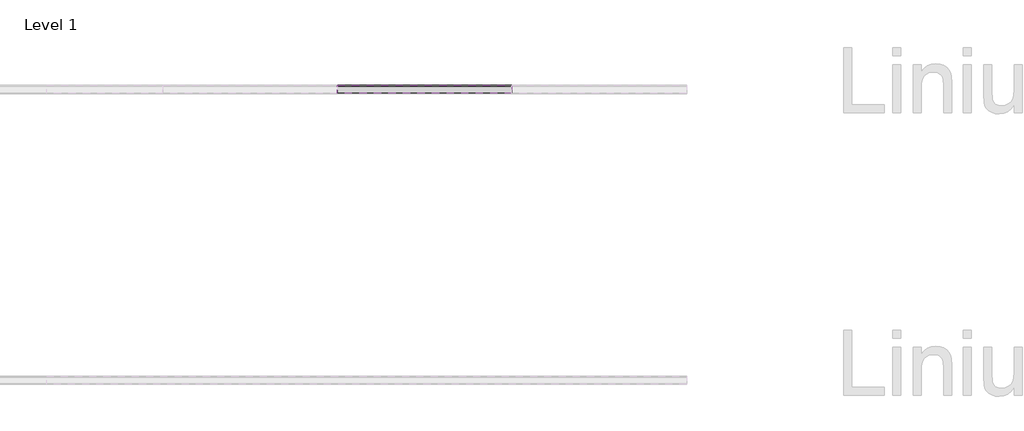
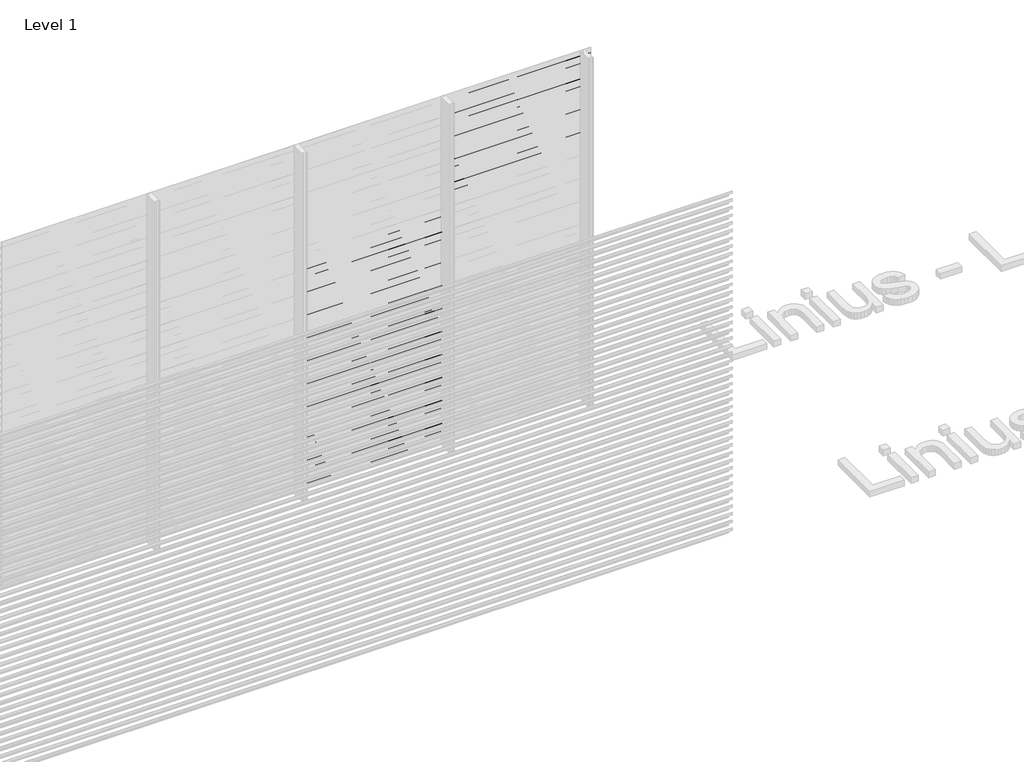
# One storey, part 129 of 540: 43 proxies.
"""IFC4 building model written with IfcOpenShell, lengths in millimetres."""

from ifc_helpers import new_model, si_unit, point, frame, frame_2d, origin, place, context, project, spatial, polyline, circle_curve, trimmed, segment, composite_curve, outline, extrude, element, save

model = new_model("IFC4")

# Units and contexts
model_context = context("Model", 3, world=origin())
ifc_project = project(units=[si_unit("LENGTHUNIT", "METRE", prefix="MILLI")], contexts=[model_context])

# Site, building, storey
site = spatial("IfcSite", under=ifc_project)
building = spatial("IfcBuilding", under=site)
storey = spatial("IfcBuildingStorey", under=building, Name="Level 1", Elevation=0.0)

# Proxies
placement = place(None, origin())
element("IfcBuildingElementProxy", 1, Name="Wall Sweeps", at=placement, inside=storey, context=model_context, shape_type="SweptSolid", body=[
    extrude(outline(composite_curve([segment(trimmed(circle_curve(frame_2d((14013.609548, 2899.7676769)), 26.4944656), [point((14030.5717655, 2920.1205608))], [point((14040.0540136, 2901.3946208))], False, "CARTESIAN"), True, "CONTINUOUS"), segment(polyline([(14040.0540136, 2901.3946208), (14040.0540136, 2893.5), (14038.8040136, 2894.2216933), (14038.8040136, 2899.7676769)]), True, "CONTINUOUS"), segment(trimmed(circle_curve(frame_2d((14013.609548, 2899.7676769)), 25.1944656), [point((14038.8040136, 2899.7676769))], [point((14029.7815085, 2919.086807))], True, "CARTESIAN"), True, "CONTINUOUS"), segment(polyline([(14029.7815085, 2919.086807), (13985.0540136, 2950.3158044), (13985.0540136, 2970.0), (13986.3040136, 2970.0), (13986.3040136, 2951.0285629), (14030.5717655, 2920.1205608)]), True, "CONTINUOUS")], self_intersect=False)), frame((94266.6208095, 0.0, 0.0), z_axis=(1.0, 0.0, 0.0), x_axis=(0.0, 1.0, 0.0)), (0.0, 0.0, 1.0), 1200.0000002),
])
element("IfcBuildingElementProxy", 2, Name="Wall Sweeps", at=placement, inside=storey, context=model_context, shape_type="SweptSolid", body=[
    extrude(outline(composite_curve([segment(trimmed(circle_curve(frame_2d((14013.609548, 2833.7676769)), 26.4944656), [point((14030.5717655, 2854.1205608))], [point((14040.0540136, 2835.3946208))], False, "CARTESIAN"), True, "CONTINUOUS"), segment(polyline([(14040.0540136, 2835.3946208), (14040.0540136, 2827.5), (14038.8040136, 2828.2216933), (14038.8040136, 2833.7676769)]), True, "CONTINUOUS"), segment(trimmed(circle_curve(frame_2d((14013.609548, 2833.7676769)), 25.1944656), [point((14038.8040136, 2833.7676769))], [point((14029.7815085, 2853.086807))], True, "CARTESIAN"), True, "CONTINUOUS"), segment(polyline([(14029.7815085, 2853.086807), (13985.0540136, 2884.3158044), (13985.0540136, 2904.0), (13986.3040136, 2904.0), (13986.3040136, 2885.0285629), (14030.5717655, 2854.1205608)]), True, "CONTINUOUS")], self_intersect=False)), frame((94266.6208095, 0.0, 0.0), z_axis=(1.0, 0.0, 0.0), x_axis=(0.0, 1.0, 0.0)), (0.0, 0.0, 1.0), 1200.0000002),
])
element("IfcBuildingElementProxy", 3, Name="Wall Sweeps", at=placement, inside=storey, context=model_context, shape_type="SweptSolid", body=[
    extrude(outline(composite_curve([segment(trimmed(circle_curve(frame_2d((14013.609548, 2767.7676769)), 26.4944656), [point((14030.5717655, 2788.1205608))], [point((14040.0540136, 2769.3946208))], False, "CARTESIAN"), True, "CONTINUOUS"), segment(polyline([(14040.0540136, 2769.3946208), (14040.0540136, 2761.5), (14038.8040136, 2762.2216933), (14038.8040136, 2767.7676769)]), True, "CONTINUOUS"), segment(trimmed(circle_curve(frame_2d((14013.609548, 2767.7676769)), 25.1944656), [point((14038.8040136, 2767.7676769))], [point((14029.7815085, 2787.086807))], True, "CARTESIAN"), True, "CONTINUOUS"), segment(polyline([(14029.7815085, 2787.086807), (13985.0540136, 2818.3158044), (13985.0540136, 2838.0), (13986.3040136, 2838.0), (13986.3040136, 2819.0285629), (14030.5717655, 2788.1205608)]), True, "CONTINUOUS")], self_intersect=False)), frame((94266.6208095, 0.0, 0.0), z_axis=(1.0, 0.0, 0.0), x_axis=(0.0, 1.0, 0.0)), (0.0, 0.0, 1.0), 1200.0000002),
])
element("IfcBuildingElementProxy", 4, Name="Wall Sweeps", at=placement, inside=storey, context=model_context, shape_type="SweptSolid", body=[
    extrude(outline(composite_curve([segment(trimmed(circle_curve(frame_2d((14013.609548, 2701.7676769)), 26.4944656), [point((14030.5717655, 2722.1205608))], [point((14040.0540136, 2703.3946208))], False, "CARTESIAN"), True, "CONTINUOUS"), segment(polyline([(14040.0540136, 2703.3946208), (14040.0540136, 2695.5), (14038.8040136, 2696.2216933), (14038.8040136, 2701.7676769)]), True, "CONTINUOUS"), segment(trimmed(circle_curve(frame_2d((14013.609548, 2701.7676769)), 25.1944656), [point((14038.8040136, 2701.7676769))], [point((14029.7815085, 2721.086807))], True, "CARTESIAN"), True, "CONTINUOUS"), segment(polyline([(14029.7815085, 2721.086807), (13985.0540136, 2752.3158044), (13985.0540136, 2772.0), (13986.3040136, 2772.0), (13986.3040136, 2753.0285629), (14030.5717655, 2722.1205608)]), True, "CONTINUOUS")], self_intersect=False)), frame((94266.6208095, 0.0, 0.0), z_axis=(1.0, 0.0, 0.0), x_axis=(0.0, 1.0, 0.0)), (0.0, 0.0, 1.0), 1200.0000002),
])
element("IfcBuildingElementProxy", 5, Name="Wall Sweeps", at=placement, inside=storey, context=model_context, shape_type="SweptSolid", body=[
    extrude(outline(composite_curve([segment(trimmed(circle_curve(frame_2d((14013.609548, 2635.7676769)), 26.4944656), [point((14030.5717655, 2656.1205608))], [point((14040.0540136, 2637.3946208))], False, "CARTESIAN"), True, "CONTINUOUS"), segment(polyline([(14040.0540136, 2637.3946208), (14040.0540136, 2629.5), (14038.8040136, 2630.2216933), (14038.8040136, 2635.7676769)]), True, "CONTINUOUS"), segment(trimmed(circle_curve(frame_2d((14013.609548, 2635.7676769)), 25.1944656), [point((14038.8040136, 2635.7676769))], [point((14029.7815085, 2655.086807))], True, "CARTESIAN"), True, "CONTINUOUS"), segment(polyline([(14029.7815085, 2655.086807), (13985.0540136, 2686.3158044), (13985.0540136, 2706.0), (13986.3040136, 2706.0), (13986.3040136, 2687.0285629), (14030.5717655, 2656.1205608)]), True, "CONTINUOUS")], self_intersect=False)), frame((94266.6208095, 0.0, 0.0), z_axis=(1.0, 0.0, 0.0), x_axis=(0.0, 1.0, 0.0)), (0.0, 0.0, 1.0), 1200.0000002),
])
element("IfcBuildingElementProxy", 6, Name="Wall Sweeps", at=placement, inside=storey, context=model_context, shape_type="SweptSolid", body=[
    extrude(outline(composite_curve([segment(trimmed(circle_curve(frame_2d((14013.609548, 2569.7676769)), 26.4944656), [point((14030.5717655, 2590.1205608))], [point((14040.0540136, 2571.3946208))], False, "CARTESIAN"), True, "CONTINUOUS"), segment(polyline([(14040.0540136, 2571.3946208), (14040.0540136, 2563.5), (14038.8040136, 2564.2216933), (14038.8040136, 2569.7676769)]), True, "CONTINUOUS"), segment(trimmed(circle_curve(frame_2d((14013.609548, 2569.7676769)), 25.1944656), [point((14038.8040136, 2569.7676769))], [point((14029.7815085, 2589.086807))], True, "CARTESIAN"), True, "CONTINUOUS"), segment(polyline([(14029.7815085, 2589.086807), (13985.0540136, 2620.3158044), (13985.0540136, 2640.0), (13986.3040136, 2640.0), (13986.3040136, 2621.0285629), (14030.5717655, 2590.1205608)]), True, "CONTINUOUS")], self_intersect=False)), frame((94266.6208095, 0.0, 0.0), z_axis=(1.0, 0.0, 0.0), x_axis=(0.0, 1.0, 0.0)), (0.0, 0.0, 1.0), 1200.0000002),
])
element("IfcBuildingElementProxy", 7, Name="Wall Sweeps", at=placement, inside=storey, context=model_context, shape_type="SweptSolid", body=[
    extrude(outline(composite_curve([segment(trimmed(circle_curve(frame_2d((14013.609548, 2503.7676769)), 26.4944656), [point((14030.5717655, 2524.1205608))], [point((14040.0540136, 2505.3946208))], False, "CARTESIAN"), True, "CONTINUOUS"), segment(polyline([(14040.0540136, 2505.3946208), (14040.0540136, 2497.5), (14038.8040136, 2498.2216933), (14038.8040136, 2503.7676769)]), True, "CONTINUOUS"), segment(trimmed(circle_curve(frame_2d((14013.609548, 2503.7676769)), 25.1944656), [point((14038.8040136, 2503.7676769))], [point((14029.7815085, 2523.086807))], True, "CARTESIAN"), True, "CONTINUOUS"), segment(polyline([(14029.7815085, 2523.086807), (13985.0540136, 2554.3158044), (13985.0540136, 2574.0), (13986.3040136, 2574.0), (13986.3040136, 2555.0285629), (14030.5717655, 2524.1205608)]), True, "CONTINUOUS")], self_intersect=False)), frame((94266.6208095, 0.0, 0.0), z_axis=(1.0, 0.0, 0.0), x_axis=(0.0, 1.0, 0.0)), (0.0, 0.0, 1.0), 1200.0000002),
])
element("IfcBuildingElementProxy", 8, Name="Wall Sweeps", at=placement, inside=storey, context=model_context, shape_type="SweptSolid", body=[
    extrude(outline(composite_curve([segment(trimmed(circle_curve(frame_2d((14013.609548, 2437.7676769)), 26.4944656), [point((14030.5717655, 2458.1205608))], [point((14040.0540136, 2439.3946208))], False, "CARTESIAN"), True, "CONTINUOUS"), segment(polyline([(14040.0540136, 2439.3946208), (14040.0540136, 2431.5), (14038.8040136, 2432.2216933), (14038.8040136, 2437.7676769)]), True, "CONTINUOUS"), segment(trimmed(circle_curve(frame_2d((14013.609548, 2437.7676769)), 25.1944656), [point((14038.8040136, 2437.7676769))], [point((14029.7815085, 2457.086807))], True, "CARTESIAN"), True, "CONTINUOUS"), segment(polyline([(14029.7815085, 2457.086807), (13985.0540136, 2488.3158044), (13985.0540136, 2508.0), (13986.3040136, 2508.0), (13986.3040136, 2489.0285629), (14030.5717655, 2458.1205608)]), True, "CONTINUOUS")], self_intersect=False)), frame((94266.6208095, 0.0, 0.0), z_axis=(1.0, 0.0, 0.0), x_axis=(0.0, 1.0, 0.0)), (0.0, 0.0, 1.0), 1200.0000002),
])
element("IfcBuildingElementProxy", 9, Name="Wall Sweeps", at=placement, inside=storey, context=model_context, shape_type="SweptSolid", body=[
    extrude(outline(composite_curve([segment(trimmed(circle_curve(frame_2d((14013.609548, 2371.7676769)), 26.4944656), [point((14030.5717655, 2392.1205608))], [point((14040.0540136, 2373.3946208))], False, "CARTESIAN"), True, "CONTINUOUS"), segment(polyline([(14040.0540136, 2373.3946208), (14040.0540136, 2365.5), (14038.8040136, 2366.2216933), (14038.8040136, 2371.7676769)]), True, "CONTINUOUS"), segment(trimmed(circle_curve(frame_2d((14013.609548, 2371.7676769)), 25.1944656), [point((14038.8040136, 2371.7676769))], [point((14029.7815085, 2391.086807))], True, "CARTESIAN"), True, "CONTINUOUS"), segment(polyline([(14029.7815085, 2391.086807), (13985.0540136, 2422.3158044), (13985.0540136, 2442.0), (13986.3040136, 2442.0), (13986.3040136, 2423.0285629), (14030.5717655, 2392.1205608)]), True, "CONTINUOUS")], self_intersect=False)), frame((94266.6208095, 0.0, 0.0), z_axis=(1.0, 0.0, 0.0), x_axis=(0.0, 1.0, 0.0)), (0.0, 0.0, 1.0), 1200.0000002),
])
element("IfcBuildingElementProxy", 10, Name="Wall Sweeps", at=placement, inside=storey, context=model_context, shape_type="SweptSolid", body=[
    extrude(outline(composite_curve([segment(trimmed(circle_curve(frame_2d((14013.609548, 2305.7676769)), 26.4944656), [point((14030.5717655, 2326.1205608))], [point((14040.0540136, 2307.3946208))], False, "CARTESIAN"), True, "CONTINUOUS"), segment(polyline([(14040.0540136, 2307.3946208), (14040.0540136, 2299.5), (14038.8040136, 2300.2216933), (14038.8040136, 2305.7676769)]), True, "CONTINUOUS"), segment(trimmed(circle_curve(frame_2d((14013.609548, 2305.7676769)), 25.1944656), [point((14038.8040136, 2305.7676769))], [point((14029.7815085, 2325.086807))], True, "CARTESIAN"), True, "CONTINUOUS"), segment(polyline([(14029.7815085, 2325.086807), (13985.0540136, 2356.3158044), (13985.0540136, 2376.0), (13986.3040136, 2376.0), (13986.3040136, 2357.0285629), (14030.5717655, 2326.1205608)]), True, "CONTINUOUS")], self_intersect=False)), frame((94266.6208095, 0.0, 0.0), z_axis=(1.0, 0.0, 0.0), x_axis=(0.0, 1.0, 0.0)), (0.0, 0.0, 1.0), 1200.0000002),
])
element("IfcBuildingElementProxy", 11, Name="Wall Sweeps", at=placement, inside=storey, context=model_context, shape_type="SweptSolid", body=[
    extrude(outline(composite_curve([segment(trimmed(circle_curve(frame_2d((14013.609548, 2239.7676769)), 26.4944656), [point((14030.5717655, 2260.1205608))], [point((14040.0540136, 2241.3946208))], False, "CARTESIAN"), True, "CONTINUOUS"), segment(polyline([(14040.0540136, 2241.3946208), (14040.0540136, 2233.5), (14038.8040136, 2234.2216933), (14038.8040136, 2239.7676769)]), True, "CONTINUOUS"), segment(trimmed(circle_curve(frame_2d((14013.609548, 2239.7676769)), 25.1944656), [point((14038.8040136, 2239.7676769))], [point((14029.7815085, 2259.086807))], True, "CARTESIAN"), True, "CONTINUOUS"), segment(polyline([(14029.7815085, 2259.086807), (13985.0540136, 2290.3158044), (13985.0540136, 2310.0), (13986.3040136, 2310.0), (13986.3040136, 2291.0285629), (14030.5717655, 2260.1205608)]), True, "CONTINUOUS")], self_intersect=False)), frame((94266.6208095, 0.0, 0.0), z_axis=(1.0, 0.0, 0.0), x_axis=(0.0, 1.0, 0.0)), (0.0, 0.0, 1.0), 1200.0000002),
])
element("IfcBuildingElementProxy", 12, Name="Wall Sweeps", at=placement, inside=storey, context=model_context, shape_type="SweptSolid", body=[
    extrude(outline(composite_curve([segment(trimmed(circle_curve(frame_2d((14013.609548, 2173.7676769)), 26.4944656), [point((14030.5717655, 2194.1205608))], [point((14040.0540136, 2175.3946208))], False, "CARTESIAN"), True, "CONTINUOUS"), segment(polyline([(14040.0540136, 2175.3946208), (14040.0540136, 2167.5), (14038.8040136, 2168.2216933), (14038.8040136, 2173.7676769)]), True, "CONTINUOUS"), segment(trimmed(circle_curve(frame_2d((14013.609548, 2173.7676769)), 25.1944656), [point((14038.8040136, 2173.7676769))], [point((14029.7815085, 2193.086807))], True, "CARTESIAN"), True, "CONTINUOUS"), segment(polyline([(14029.7815085, 2193.086807), (13985.0540136, 2224.3158044), (13985.0540136, 2244.0), (13986.3040136, 2244.0), (13986.3040136, 2225.0285629), (14030.5717655, 2194.1205608)]), True, "CONTINUOUS")], self_intersect=False)), frame((94266.6208095, 0.0, 0.0), z_axis=(1.0, 0.0, 0.0), x_axis=(0.0, 1.0, 0.0)), (0.0, 0.0, 1.0), 1200.0000002),
])
element("IfcBuildingElementProxy", 13, Name="Wall Sweeps", at=placement, inside=storey, context=model_context, shape_type="SweptSolid", body=[
    extrude(outline(composite_curve([segment(trimmed(circle_curve(frame_2d((14013.609548, 2107.7676769)), 26.4944656), [point((14030.5717655, 2128.1205608))], [point((14040.0540136, 2109.3946208))], False, "CARTESIAN"), True, "CONTINUOUS"), segment(polyline([(14040.0540136, 2109.3946208), (14040.0540136, 2101.5), (14038.8040136, 2102.2216933), (14038.8040136, 2107.7676769)]), True, "CONTINUOUS"), segment(trimmed(circle_curve(frame_2d((14013.609548, 2107.7676769)), 25.1944656), [point((14038.8040136, 2107.7676769))], [point((14029.7815085, 2127.086807))], True, "CARTESIAN"), True, "CONTINUOUS"), segment(polyline([(14029.7815085, 2127.086807), (13985.0540136, 2158.3158044), (13985.0540136, 2178.0), (13986.3040136, 2178.0), (13986.3040136, 2159.0285629), (14030.5717655, 2128.1205608)]), True, "CONTINUOUS")], self_intersect=False)), frame((94266.6208095, 0.0, 0.0), z_axis=(1.0, 0.0, 0.0), x_axis=(0.0, 1.0, 0.0)), (0.0, 0.0, 1.0), 1200.0000002),
])
element("IfcBuildingElementProxy", 14, Name="Wall Sweeps", at=placement, inside=storey, context=model_context, shape_type="SweptSolid", body=[
    extrude(outline(composite_curve([segment(trimmed(circle_curve(frame_2d((14013.609548, 1909.7676769)), 26.4944656), [point((14030.5717655, 1930.1205608))], [point((14040.0540136, 1911.3946208))], False, "CARTESIAN"), True, "CONTINUOUS"), segment(polyline([(14040.0540136, 1911.3946208), (14040.0540136, 1903.5), (14038.8040136, 1904.2216933), (14038.8040136, 1909.7676769)]), True, "CONTINUOUS"), segment(trimmed(circle_curve(frame_2d((14013.609548, 1909.7676769)), 25.1944656), [point((14038.8040136, 1909.7676769))], [point((14029.7815085, 1929.086807))], True, "CARTESIAN"), True, "CONTINUOUS"), segment(polyline([(14029.7815085, 1929.086807), (13985.0540136, 1960.3158044), (13985.0540136, 1980.0), (13986.3040136, 1980.0), (13986.3040136, 1961.0285629), (14030.5717655, 1930.1205608)]), True, "CONTINUOUS")], self_intersect=False)), frame((93066.6208096, 0.0, 0.0), z_axis=(1.0, 0.0, 0.0), x_axis=(0.0, 1.0, 0.0)), (0.0, 0.0, 1.0), 1199.9999999),
])
element("IfcBuildingElementProxy", 15, Name="Wall Sweeps", at=placement, inside=storey, context=model_context, shape_type="SweptSolid", body=[
    extrude(outline(composite_curve([segment(trimmed(circle_curve(frame_2d((14013.609548, 1843.7676769)), 26.4944656), [point((14030.5717655, 1864.1205608))], [point((14040.0540136, 1845.3946208))], False, "CARTESIAN"), True, "CONTINUOUS"), segment(polyline([(14040.0540136, 1845.3946208), (14040.0540136, 1837.5), (14038.8040136, 1838.2216933), (14038.8040136, 1843.7676769)]), True, "CONTINUOUS"), segment(trimmed(circle_curve(frame_2d((14013.609548, 1843.7676769)), 25.1944656), [point((14038.8040136, 1843.7676769))], [point((14029.7815085, 1863.086807))], True, "CARTESIAN"), True, "CONTINUOUS"), segment(polyline([(14029.7815085, 1863.086807), (13985.0540136, 1894.3158044), (13985.0540136, 1914.0), (13986.3040136, 1914.0), (13986.3040136, 1895.0285629), (14030.5717655, 1864.1205608)]), True, "CONTINUOUS")], self_intersect=False)), frame((93066.6208096, 0.0, 0.0), z_axis=(1.0, 0.0, 0.0), x_axis=(0.0, 1.0, 0.0)), (0.0, 0.0, 1.0), 1199.9999999),
])
element("IfcBuildingElementProxy", 16, Name="Wall Sweeps", at=placement, inside=storey, context=model_context, shape_type="SweptSolid", body=[
    extrude(outline(composite_curve([segment(trimmed(circle_curve(frame_2d((14013.609548, 1777.7676769)), 26.4944656), [point((14030.5717655, 1798.1205608))], [point((14040.0540136, 1779.3946208))], False, "CARTESIAN"), True, "CONTINUOUS"), segment(polyline([(14040.0540136, 1779.3946208), (14040.0540136, 1771.5), (14038.8040136, 1772.2216933), (14038.8040136, 1777.7676769)]), True, "CONTINUOUS"), segment(trimmed(circle_curve(frame_2d((14013.609548, 1777.7676769)), 25.1944656), [point((14038.8040136, 1777.7676769))], [point((14029.7815085, 1797.086807))], True, "CARTESIAN"), True, "CONTINUOUS"), segment(polyline([(14029.7815085, 1797.086807), (13985.0540136, 1828.3158044), (13985.0540136, 1848.0), (13986.3040136, 1848.0), (13986.3040136, 1829.0285629), (14030.5717655, 1798.1205608)]), True, "CONTINUOUS")], self_intersect=False)), frame((93066.6208096, 0.0, 0.0), z_axis=(1.0, 0.0, 0.0), x_axis=(0.0, 1.0, 0.0)), (0.0, 0.0, 1.0), 1199.9999999),
])
element("IfcBuildingElementProxy", 17, Name="Wall Sweeps", at=placement, inside=storey, context=model_context, shape_type="SweptSolid", body=[
    extrude(outline(composite_curve([segment(trimmed(circle_curve(frame_2d((14013.609548, 1711.7676769)), 26.4944656), [point((14030.5717655, 1732.1205608))], [point((14040.0540136, 1713.3946208))], False, "CARTESIAN"), True, "CONTINUOUS"), segment(polyline([(14040.0540136, 1713.3946208), (14040.0540136, 1705.5), (14038.8040136, 1706.2216933), (14038.8040136, 1711.7676769)]), True, "CONTINUOUS"), segment(trimmed(circle_curve(frame_2d((14013.609548, 1711.7676769)), 25.1944656), [point((14038.8040136, 1711.7676769))], [point((14029.7815085, 1731.086807))], True, "CARTESIAN"), True, "CONTINUOUS"), segment(polyline([(14029.7815085, 1731.086807), (13985.0540136, 1762.3158044), (13985.0540136, 1782.0), (13986.3040136, 1782.0), (13986.3040136, 1763.0285629), (14030.5717655, 1732.1205608)]), True, "CONTINUOUS")], self_intersect=False)), frame((93066.6208096, 0.0, 0.0), z_axis=(1.0, 0.0, 0.0), x_axis=(0.0, 1.0, 0.0)), (0.0, 0.0, 1.0), 1199.9999999),
])
element("IfcBuildingElementProxy", 18, Name="Wall Sweeps", at=placement, inside=storey, context=model_context, shape_type="SweptSolid", body=[
    extrude(outline(composite_curve([segment(trimmed(circle_curve(frame_2d((14013.609548, 1645.7676769)), 26.4944656), [point((14030.5717655, 1666.1205608))], [point((14040.0540136, 1647.3946208))], False, "CARTESIAN"), True, "CONTINUOUS"), segment(polyline([(14040.0540136, 1647.3946208), (14040.0540136, 1639.5), (14038.8040136, 1640.2216933), (14038.8040136, 1645.7676769)]), True, "CONTINUOUS"), segment(trimmed(circle_curve(frame_2d((14013.609548, 1645.7676769)), 25.1944656), [point((14038.8040136, 1645.7676769))], [point((14029.7815085, 1665.086807))], True, "CARTESIAN"), True, "CONTINUOUS"), segment(polyline([(14029.7815085, 1665.086807), (13985.0540136, 1696.3158044), (13985.0540136, 1716.0), (13986.3040136, 1716.0), (13986.3040136, 1697.0285629), (14030.5717655, 1666.1205608)]), True, "CONTINUOUS")], self_intersect=False)), frame((93066.6208096, 0.0, 0.0), z_axis=(1.0, 0.0, 0.0), x_axis=(0.0, 1.0, 0.0)), (0.0, 0.0, 1.0), 1199.9999999),
])
element("IfcBuildingElementProxy", 19, Name="Wall Sweeps", at=placement, inside=storey, context=model_context, shape_type="SweptSolid", body=[
    extrude(outline(composite_curve([segment(trimmed(circle_curve(frame_2d((14013.609548, 1579.7676769)), 26.4944656), [point((14030.5717655, 1600.1205608))], [point((14040.0540136, 1581.3946208))], False, "CARTESIAN"), True, "CONTINUOUS"), segment(polyline([(14040.0540136, 1581.3946208), (14040.0540136, 1573.5), (14038.8040136, 1574.2216933), (14038.8040136, 1579.7676769)]), True, "CONTINUOUS"), segment(trimmed(circle_curve(frame_2d((14013.609548, 1579.7676769)), 25.1944656), [point((14038.8040136, 1579.7676769))], [point((14029.7815085, 1599.086807))], True, "CARTESIAN"), True, "CONTINUOUS"), segment(polyline([(14029.7815085, 1599.086807), (13985.0540136, 1630.3158044), (13985.0540136, 1650.0), (13986.3040136, 1650.0), (13986.3040136, 1631.0285629), (14030.5717655, 1600.1205608)]), True, "CONTINUOUS")], self_intersect=False)), frame((93066.6208096, 0.0, 0.0), z_axis=(1.0, 0.0, 0.0), x_axis=(0.0, 1.0, 0.0)), (0.0, 0.0, 1.0), 1199.9999999),
])
element("IfcBuildingElementProxy", 20, Name="Wall Sweeps", at=placement, inside=storey, context=model_context, shape_type="SweptSolid", body=[
    extrude(outline(composite_curve([segment(trimmed(circle_curve(frame_2d((14013.609548, 1513.7676769)), 26.4944656), [point((14030.5717655, 1534.1205608))], [point((14040.0540136, 1515.3946208))], False, "CARTESIAN"), True, "CONTINUOUS"), segment(polyline([(14040.0540136, 1515.3946208), (14040.0540136, 1507.5), (14038.8040136, 1508.2216933), (14038.8040136, 1513.7676769)]), True, "CONTINUOUS"), segment(trimmed(circle_curve(frame_2d((14013.609548, 1513.7676769)), 25.1944656), [point((14038.8040136, 1513.7676769))], [point((14029.7815085, 1533.086807))], True, "CARTESIAN"), True, "CONTINUOUS"), segment(polyline([(14029.7815085, 1533.086807), (13985.0540136, 1564.3158044), (13985.0540136, 1584.0), (13986.3040136, 1584.0), (13986.3040136, 1565.0285629), (14030.5717655, 1534.1205608)]), True, "CONTINUOUS")], self_intersect=False)), frame((93066.6208096, 0.0, 0.0), z_axis=(1.0, 0.0, 0.0), x_axis=(0.0, 1.0, 0.0)), (0.0, 0.0, 1.0), 1199.9999999),
])
element("IfcBuildingElementProxy", 21, Name="Wall Sweeps", at=placement, inside=storey, context=model_context, shape_type="SweptSolid", body=[
    extrude(outline(composite_curve([segment(trimmed(circle_curve(frame_2d((14013.609548, 1447.7676769)), 26.4944656), [point((14030.5717655, 1468.1205608))], [point((14040.0540136, 1449.3946208))], False, "CARTESIAN"), True, "CONTINUOUS"), segment(polyline([(14040.0540136, 1449.3946208), (14040.0540136, 1441.5), (14038.8040136, 1442.2216933), (14038.8040136, 1447.7676769)]), True, "CONTINUOUS"), segment(trimmed(circle_curve(frame_2d((14013.609548, 1447.7676769)), 25.1944656), [point((14038.8040136, 1447.7676769))], [point((14029.7815085, 1467.086807))], True, "CARTESIAN"), True, "CONTINUOUS"), segment(polyline([(14029.7815085, 1467.086807), (13985.0540136, 1498.3158044), (13985.0540136, 1518.0), (13986.3040136, 1518.0), (13986.3040136, 1499.0285629), (14030.5717655, 1468.1205608)]), True, "CONTINUOUS")], self_intersect=False)), frame((93066.6208096, 0.0, 0.0), z_axis=(1.0, 0.0, 0.0), x_axis=(0.0, 1.0, 0.0)), (0.0, 0.0, 1.0), 1199.9999999),
])
element("IfcBuildingElementProxy", 22, Name="Wall Sweeps", at=placement, inside=storey, context=model_context, shape_type="SweptSolid", body=[
    extrude(outline(composite_curve([segment(trimmed(circle_curve(frame_2d((14013.609548, 1381.7676769)), 26.4944656), [point((14030.5717655, 1402.1205608))], [point((14040.0540136, 1383.3946208))], False, "CARTESIAN"), True, "CONTINUOUS"), segment(polyline([(14040.0540136, 1383.3946208), (14040.0540136, 1375.5), (14038.8040136, 1376.2216933), (14038.8040136, 1381.7676769)]), True, "CONTINUOUS"), segment(trimmed(circle_curve(frame_2d((14013.609548, 1381.7676769)), 25.1944656), [point((14038.8040136, 1381.7676769))], [point((14029.7815085, 1401.086807))], True, "CARTESIAN"), True, "CONTINUOUS"), segment(polyline([(14029.7815085, 1401.086807), (13985.0540136, 1432.3158044), (13985.0540136, 1452.0), (13986.3040136, 1452.0), (13986.3040136, 1433.0285629), (14030.5717655, 1402.1205608)]), True, "CONTINUOUS")], self_intersect=False)), frame((93066.6208096, 0.0, 0.0), z_axis=(1.0, 0.0, 0.0), x_axis=(0.0, 1.0, 0.0)), (0.0, 0.0, 1.0), 1199.9999999),
])
element("IfcBuildingElementProxy", 23, Name="Wall Sweeps", at=placement, inside=storey, context=model_context, shape_type="SweptSolid", body=[
    extrude(outline(composite_curve([segment(trimmed(circle_curve(frame_2d((14013.609548, 1315.7676769)), 26.4944656), [point((14030.5717655, 1336.1205608))], [point((14040.0540136, 1317.3946208))], False, "CARTESIAN"), True, "CONTINUOUS"), segment(polyline([(14040.0540136, 1317.3946208), (14040.0540136, 1309.5), (14038.8040136, 1310.2216933), (14038.8040136, 1315.7676769)]), True, "CONTINUOUS"), segment(trimmed(circle_curve(frame_2d((14013.609548, 1315.7676769)), 25.1944656), [point((14038.8040136, 1315.7676769))], [point((14029.7815085, 1335.086807))], True, "CARTESIAN"), True, "CONTINUOUS"), segment(polyline([(14029.7815085, 1335.086807), (13985.0540136, 1366.3158044), (13985.0540136, 1386.0), (13986.3040136, 1386.0), (13986.3040136, 1367.0285629), (14030.5717655, 1336.1205608)]), True, "CONTINUOUS")], self_intersect=False)), frame((93066.6208096, 0.0, 0.0), z_axis=(1.0, 0.0, 0.0), x_axis=(0.0, 1.0, 0.0)), (0.0, 0.0, 1.0), 1199.9999999),
])
element("IfcBuildingElementProxy", 24, Name="Wall Sweeps", at=placement, inside=storey, context=model_context, shape_type="SweptSolid", body=[
    extrude(outline(composite_curve([segment(trimmed(circle_curve(frame_2d((14013.609548, 1249.7676769)), 26.4944656), [point((14030.5717655, 1270.1205608))], [point((14040.0540136, 1251.3946208))], False, "CARTESIAN"), True, "CONTINUOUS"), segment(polyline([(14040.0540136, 1251.3946208), (14040.0540136, 1243.5), (14038.8040136, 1244.2216933), (14038.8040136, 1249.7676769)]), True, "CONTINUOUS"), segment(trimmed(circle_curve(frame_2d((14013.609548, 1249.7676769)), 25.1944656), [point((14038.8040136, 1249.7676769))], [point((14029.7815085, 1269.086807))], True, "CARTESIAN"), True, "CONTINUOUS"), segment(polyline([(14029.7815085, 1269.086807), (13985.0540136, 1300.3158044), (13985.0540136, 1320.0), (13986.3040136, 1320.0), (13986.3040136, 1301.0285629), (14030.5717655, 1270.1205608)]), True, "CONTINUOUS")], self_intersect=False)), frame((93066.6208096, 0.0, 0.0), z_axis=(1.0, 0.0, 0.0), x_axis=(0.0, 1.0, 0.0)), (0.0, 0.0, 1.0), 1199.9999999),
])
element("IfcBuildingElementProxy", 25, Name="Wall Sweeps", at=placement, inside=storey, context=model_context, shape_type="SweptSolid", body=[
    extrude(outline(composite_curve([segment(trimmed(circle_curve(frame_2d((14013.609548, 1183.7676769)), 26.4944656), [point((14030.5717655, 1204.1205608))], [point((14040.0540136, 1185.3946208))], False, "CARTESIAN"), True, "CONTINUOUS"), segment(polyline([(14040.0540136, 1185.3946208), (14040.0540136, 1177.5), (14038.8040136, 1178.2216933), (14038.8040136, 1183.7676769)]), True, "CONTINUOUS"), segment(trimmed(circle_curve(frame_2d((14013.609548, 1183.7676769)), 25.1944656), [point((14038.8040136, 1183.7676769))], [point((14029.7815085, 1203.086807))], True, "CARTESIAN"), True, "CONTINUOUS"), segment(polyline([(14029.7815085, 1203.086807), (13985.0540136, 1234.3158044), (13985.0540136, 1254.0), (13986.3040136, 1254.0), (13986.3040136, 1235.0285629), (14030.5717655, 1204.1205608)]), True, "CONTINUOUS")], self_intersect=False)), frame((93066.6208096, 0.0, 0.0), z_axis=(1.0, 0.0, 0.0), x_axis=(0.0, 1.0, 0.0)), (0.0, 0.0, 1.0), 1199.9999999),
])
element("IfcBuildingElementProxy", 26, Name="Wall Sweeps", at=placement, inside=storey, context=model_context, shape_type="SweptSolid", body=[
    extrude(outline(composite_curve([segment(trimmed(circle_curve(frame_2d((14013.609548, 1117.7676769)), 26.4944656), [point((14030.5717655, 1138.1205608))], [point((14040.0540136, 1119.3946208))], False, "CARTESIAN"), True, "CONTINUOUS"), segment(polyline([(14040.0540136, 1119.3946208), (14040.0540136, 1111.5), (14038.8040136, 1112.2216933), (14038.8040136, 1117.7676769)]), True, "CONTINUOUS"), segment(trimmed(circle_curve(frame_2d((14013.609548, 1117.7676769)), 25.1944656), [point((14038.8040136, 1117.7676769))], [point((14029.7815085, 1137.086807))], True, "CARTESIAN"), True, "CONTINUOUS"), segment(polyline([(14029.7815085, 1137.086807), (13985.0540136, 1168.3158044), (13985.0540136, 1188.0), (13986.3040136, 1188.0), (13986.3040136, 1169.0285629), (14030.5717655, 1138.1205608)]), True, "CONTINUOUS")], self_intersect=False)), frame((93066.6208096, 0.0, 0.0), z_axis=(1.0, 0.0, 0.0), x_axis=(0.0, 1.0, 0.0)), (0.0, 0.0, 1.0), 1199.9999999),
])
element("IfcBuildingElementProxy", 27, Name="Wall Sweeps", at=placement, inside=storey, context=model_context, shape_type="SweptSolid", body=[
    extrude(outline(composite_curve([segment(trimmed(circle_curve(frame_2d((14013.609548, 1051.7676769)), 26.4944656), [point((14030.5717655, 1072.1205608))], [point((14040.0540136, 1053.3946208))], False, "CARTESIAN"), True, "CONTINUOUS"), segment(polyline([(14040.0540136, 1053.3946208), (14040.0540136, 1045.5), (14038.8040136, 1046.2216933), (14038.8040136, 1051.7676769)]), True, "CONTINUOUS"), segment(trimmed(circle_curve(frame_2d((14013.609548, 1051.7676769)), 25.1944656), [point((14038.8040136, 1051.7676769))], [point((14029.7815085, 1071.086807))], True, "CARTESIAN"), True, "CONTINUOUS"), segment(polyline([(14029.7815085, 1071.086807), (13985.0540136, 1102.3158044), (13985.0540136, 1122.0), (13986.3040136, 1122.0), (13986.3040136, 1103.0285629), (14030.5717655, 1072.1205608)]), True, "CONTINUOUS")], self_intersect=False)), frame((93066.6208096, 0.0, 0.0), z_axis=(1.0, 0.0, 0.0), x_axis=(0.0, 1.0, 0.0)), (0.0, 0.0, 1.0), 1199.9999999),
])
element("IfcBuildingElementProxy", 28, Name="Wall Sweeps", at=placement, inside=storey, context=model_context, shape_type="SweptSolid", body=[
    extrude(outline(composite_curve([segment(trimmed(circle_curve(frame_2d((14013.609548, 985.7676769)), 26.4944656), [point((14030.5717655, 1006.1205608))], [point((14040.0540136, 987.3946208))], False, "CARTESIAN"), True, "CONTINUOUS"), segment(polyline([(14040.0540136, 987.3946208), (14040.0540136, 979.5), (14038.8040136, 980.2216933), (14038.8040136, 985.7676769)]), True, "CONTINUOUS"), segment(trimmed(circle_curve(frame_2d((14013.609548, 985.7676769)), 25.1944656), [point((14038.8040136, 985.7676769))], [point((14029.7815085, 1005.086807))], True, "CARTESIAN"), True, "CONTINUOUS"), segment(polyline([(14029.7815085, 1005.086807), (13985.0540136, 1036.3158044), (13985.0540136, 1056.0), (13986.3040136, 1056.0), (13986.3040136, 1037.0285629), (14030.5717655, 1006.1205608)]), True, "CONTINUOUS")], self_intersect=False)), frame((93066.6208096, 0.0, 0.0), z_axis=(1.0, 0.0, 0.0), x_axis=(0.0, 1.0, 0.0)), (0.0, 0.0, 1.0), 1199.9999999),
])
element("IfcBuildingElementProxy", 29, Name="Wall Sweeps", at=placement, inside=storey, context=model_context, shape_type="SweptSolid", body=[
    extrude(outline(composite_curve([segment(trimmed(circle_curve(frame_2d((14013.609548, 919.7676769)), 26.4944656), [point((14030.5717655, 940.1205608))], [point((14040.0540136, 921.3946208))], False, "CARTESIAN"), True, "CONTINUOUS"), segment(polyline([(14040.0540136, 921.3946208), (14040.0540136, 913.5), (14038.8040136, 914.2216933), (14038.8040136, 919.7676769)]), True, "CONTINUOUS"), segment(trimmed(circle_curve(frame_2d((14013.609548, 919.7676769)), 25.1944656), [point((14038.8040136, 919.7676769))], [point((14029.7815085, 939.086807))], True, "CARTESIAN"), True, "CONTINUOUS"), segment(polyline([(14029.7815085, 939.086807), (13985.0540136, 970.3158044), (13985.0540136, 990.0), (13986.3040136, 990.0), (13986.3040136, 971.0285629), (14030.5717655, 940.1205608)]), True, "CONTINUOUS")], self_intersect=False)), frame((93066.6208096, 0.0, 0.0), z_axis=(1.0, 0.0, 0.0), x_axis=(0.0, 1.0, 0.0)), (0.0, 0.0, 1.0), 1199.9999999),
])
element("IfcBuildingElementProxy", 30, Name="Wall Sweeps", at=placement, inside=storey, context=model_context, shape_type="SweptSolid", body=[
    extrude(outline(composite_curve([segment(trimmed(circle_curve(frame_2d((14013.609548, 853.7676769)), 26.4944656), [point((14030.5717655, 874.1205608))], [point((14040.0540136, 855.3946208))], False, "CARTESIAN"), True, "CONTINUOUS"), segment(polyline([(14040.0540136, 855.3946208), (14040.0540136, 847.5), (14038.8040136, 848.2216933), (14038.8040136, 853.7676769)]), True, "CONTINUOUS"), segment(trimmed(circle_curve(frame_2d((14013.609548, 853.7676769)), 25.1944656), [point((14038.8040136, 853.7676769))], [point((14029.7815085, 873.086807))], True, "CARTESIAN"), True, "CONTINUOUS"), segment(polyline([(14029.7815085, 873.086807), (13985.0540136, 904.3158044), (13985.0540136, 924.0), (13986.3040136, 924.0), (13986.3040136, 905.0285629), (14030.5717655, 874.1205608)]), True, "CONTINUOUS")], self_intersect=False)), frame((93066.6208096, 0.0, 0.0), z_axis=(1.0, 0.0, 0.0), x_axis=(0.0, 1.0, 0.0)), (0.0, 0.0, 1.0), 1199.9999999),
])
element("IfcBuildingElementProxy", 31, Name="Wall Sweeps", at=placement, inside=storey, context=model_context, shape_type="SweptSolid", body=[
    extrude(outline(composite_curve([segment(trimmed(circle_curve(frame_2d((14013.609548, 787.7676769)), 26.4944656), [point((14030.5717655, 808.1205608))], [point((14040.0540136, 789.3946208))], False, "CARTESIAN"), True, "CONTINUOUS"), segment(polyline([(14040.0540136, 789.3946208), (14040.0540136, 781.5), (14038.8040136, 782.2216933), (14038.8040136, 787.7676769)]), True, "CONTINUOUS"), segment(trimmed(circle_curve(frame_2d((14013.609548, 787.7676769)), 25.1944656), [point((14038.8040136, 787.7676769))], [point((14029.7815085, 807.086807))], True, "CARTESIAN"), True, "CONTINUOUS"), segment(polyline([(14029.7815085, 807.086807), (13985.0540136, 838.3158044), (13985.0540136, 858.0), (13986.3040136, 858.0), (13986.3040136, 839.0285629), (14030.5717655, 808.1205608)]), True, "CONTINUOUS")], self_intersect=False)), frame((93066.6208096, 0.0, 0.0), z_axis=(1.0, 0.0, 0.0), x_axis=(0.0, 1.0, 0.0)), (0.0, 0.0, 1.0), 1199.9999999),
])
element("IfcBuildingElementProxy", 32, Name="Wall Sweeps", at=placement, inside=storey, context=model_context, shape_type="SweptSolid", body=[
    extrude(outline(composite_curve([segment(trimmed(circle_curve(frame_2d((14013.609548, 721.7676769)), 26.4944656), [point((14030.5717655, 742.1205608))], [point((14040.0540136, 723.3946208))], False, "CARTESIAN"), True, "CONTINUOUS"), segment(polyline([(14040.0540136, 723.3946208), (14040.0540136, 715.5), (14038.8040136, 716.2216933), (14038.8040136, 721.7676769)]), True, "CONTINUOUS"), segment(trimmed(circle_curve(frame_2d((14013.609548, 721.7676769)), 25.1944656), [point((14038.8040136, 721.7676769))], [point((14029.7815085, 741.086807))], True, "CARTESIAN"), True, "CONTINUOUS"), segment(polyline([(14029.7815085, 741.086807), (13985.0540136, 772.3158044), (13985.0540136, 792.0), (13986.3040136, 792.0), (13986.3040136, 773.0285629), (14030.5717655, 742.1205608)]), True, "CONTINUOUS")], self_intersect=False)), frame((93066.6208096, 0.0, 0.0), z_axis=(1.0, 0.0, 0.0), x_axis=(0.0, 1.0, 0.0)), (0.0, 0.0, 1.0), 1199.9999999),
])
element("IfcBuildingElementProxy", 33, Name="Wall Sweeps", at=placement, inside=storey, context=model_context, shape_type="SweptSolid", body=[
    extrude(outline(composite_curve([segment(trimmed(circle_curve(frame_2d((14013.609548, 655.7676769)), 26.4944656), [point((14030.5717655, 676.1205608))], [point((14040.0540136, 657.3946208))], False, "CARTESIAN"), True, "CONTINUOUS"), segment(polyline([(14040.0540136, 657.3946208), (14040.0540136, 649.5), (14038.8040136, 650.2216933), (14038.8040136, 655.7676769)]), True, "CONTINUOUS"), segment(trimmed(circle_curve(frame_2d((14013.609548, 655.7676769)), 25.1944656), [point((14038.8040136, 655.7676769))], [point((14029.7815085, 675.086807))], True, "CARTESIAN"), True, "CONTINUOUS"), segment(polyline([(14029.7815085, 675.086807), (13985.0540136, 706.3158044), (13985.0540136, 726.0), (13986.3040136, 726.0), (13986.3040136, 707.0285629), (14030.5717655, 676.1205608)]), True, "CONTINUOUS")], self_intersect=False)), frame((93066.6208096, 0.0, 0.0), z_axis=(1.0, 0.0, 0.0), x_axis=(0.0, 1.0, 0.0)), (0.0, 0.0, 1.0), 1199.9999999),
])
element("IfcBuildingElementProxy", 34, Name="Wall Sweeps", at=placement, inside=storey, context=model_context, shape_type="SweptSolid", body=[
    extrude(outline(composite_curve([segment(trimmed(circle_curve(frame_2d((14013.609548, 589.7676769)), 26.4944656), [point((14030.5717655, 610.1205608))], [point((14040.0540136, 591.3946208))], False, "CARTESIAN"), True, "CONTINUOUS"), segment(polyline([(14040.0540136, 591.3946208), (14040.0540136, 583.5), (14038.8040136, 584.2216933), (14038.8040136, 589.7676769)]), True, "CONTINUOUS"), segment(trimmed(circle_curve(frame_2d((14013.609548, 589.7676769)), 25.1944656), [point((14038.8040136, 589.7676769))], [point((14029.7815085, 609.086807))], True, "CARTESIAN"), True, "CONTINUOUS"), segment(polyline([(14029.7815085, 609.086807), (13985.0540136, 640.3158044), (13985.0540136, 660.0), (13986.3040136, 660.0), (13986.3040136, 641.0285629), (14030.5717655, 610.1205608)]), True, "CONTINUOUS")], self_intersect=False)), frame((93066.6208096, 0.0, 0.0), z_axis=(1.0, 0.0, 0.0), x_axis=(0.0, 1.0, 0.0)), (0.0, 0.0, 1.0), 1199.9999999),
])
element("IfcBuildingElementProxy", 35, Name="Wall Sweeps", at=placement, inside=storey, context=model_context, shape_type="SweptSolid", body=[
    extrude(outline(composite_curve([segment(trimmed(circle_curve(frame_2d((14013.609548, 523.7676769)), 26.4944656), [point((14030.5717655, 544.1205608))], [point((14040.0540136, 525.3946208))], False, "CARTESIAN"), True, "CONTINUOUS"), segment(polyline([(14040.0540136, 525.3946208), (14040.0540136, 517.5), (14038.8040136, 518.2216933), (14038.8040136, 523.7676769)]), True, "CONTINUOUS"), segment(trimmed(circle_curve(frame_2d((14013.609548, 523.7676769)), 25.1944656), [point((14038.8040136, 523.7676769))], [point((14029.7815085, 543.086807))], True, "CARTESIAN"), True, "CONTINUOUS"), segment(polyline([(14029.7815085, 543.086807), (13985.0540136, 574.3158044), (13985.0540136, 594.0), (13986.3040136, 594.0), (13986.3040136, 575.0285629), (14030.5717655, 544.1205608)]), True, "CONTINUOUS")], self_intersect=False)), frame((93066.6208096, 0.0, 0.0), z_axis=(1.0, 0.0, 0.0), x_axis=(0.0, 1.0, 0.0)), (0.0, 0.0, 1.0), 1199.9999999),
])
element("IfcBuildingElementProxy", 36, Name="Wall Sweeps", at=placement, inside=storey, context=model_context, shape_type="SweptSolid", body=[
    extrude(outline(composite_curve([segment(trimmed(circle_curve(frame_2d((14013.609548, 457.7676769)), 26.4944656), [point((14030.5717655, 478.1205608))], [point((14040.0540136, 459.3946208))], False, "CARTESIAN"), True, "CONTINUOUS"), segment(polyline([(14040.0540136, 459.3946208), (14040.0540136, 451.5), (14038.8040136, 452.2216933), (14038.8040136, 457.7676769)]), True, "CONTINUOUS"), segment(trimmed(circle_curve(frame_2d((14013.609548, 457.7676769)), 25.1944656), [point((14038.8040136, 457.7676769))], [point((14029.7815085, 477.086807))], True, "CARTESIAN"), True, "CONTINUOUS"), segment(polyline([(14029.7815085, 477.086807), (13985.0540136, 508.3158044), (13985.0540136, 528.0), (13986.3040136, 528.0), (13986.3040136, 509.0285629), (14030.5717655, 478.1205608)]), True, "CONTINUOUS")], self_intersect=False)), frame((93066.6208096, 0.0, 0.0), z_axis=(1.0, 0.0, 0.0), x_axis=(0.0, 1.0, 0.0)), (0.0, 0.0, 1.0), 1199.9999999),
])
element("IfcBuildingElementProxy", 37, Name="Wall Sweeps", at=placement, inside=storey, context=model_context, shape_type="SweptSolid", body=[
    extrude(outline(composite_curve([segment(trimmed(circle_curve(frame_2d((14013.609548, 391.7676769)), 26.4944656), [point((14030.5717655, 412.1205608))], [point((14040.0540136, 393.3946208))], False, "CARTESIAN"), True, "CONTINUOUS"), segment(polyline([(14040.0540136, 393.3946208), (14040.0540136, 385.5), (14038.8040136, 386.2216933), (14038.8040136, 391.7676769)]), True, "CONTINUOUS"), segment(trimmed(circle_curve(frame_2d((14013.609548, 391.7676769)), 25.1944656), [point((14038.8040136, 391.7676769))], [point((14029.7815085, 411.086807))], True, "CARTESIAN"), True, "CONTINUOUS"), segment(polyline([(14029.7815085, 411.086807), (13985.0540136, 442.3158044), (13985.0540136, 462.0), (13986.3040136, 462.0), (13986.3040136, 443.0285629), (14030.5717655, 412.1205608)]), True, "CONTINUOUS")], self_intersect=False)), frame((93066.6208096, 0.0, 0.0), z_axis=(1.0, 0.0, 0.0), x_axis=(0.0, 1.0, 0.0)), (0.0, 0.0, 1.0), 1199.9999999),
])
element("IfcBuildingElementProxy", 38, Name="Wall Sweeps", at=placement, inside=storey, context=model_context, shape_type="SweptSolid", body=[
    extrude(outline(composite_curve([segment(trimmed(circle_curve(frame_2d((14013.609548, 325.7676769)), 26.4944656), [point((14030.5717655, 346.1205608))], [point((14040.0540136, 327.3946208))], False, "CARTESIAN"), True, "CONTINUOUS"), segment(polyline([(14040.0540136, 327.3946208), (14040.0540136, 319.5), (14038.8040136, 320.2216933), (14038.8040136, 325.7676769)]), True, "CONTINUOUS"), segment(trimmed(circle_curve(frame_2d((14013.609548, 325.7676769)), 25.1944656), [point((14038.8040136, 325.7676769))], [point((14029.7815085, 345.086807))], True, "CARTESIAN"), True, "CONTINUOUS"), segment(polyline([(14029.7815085, 345.086807), (13985.0540136, 376.3158044), (13985.0540136, 396.0), (13986.3040136, 396.0), (13986.3040136, 377.0285629), (14030.5717655, 346.1205608)]), True, "CONTINUOUS")], self_intersect=False)), frame((93066.6208096, 0.0, 0.0), z_axis=(1.0, 0.0, 0.0), x_axis=(0.0, 1.0, 0.0)), (0.0, 0.0, 1.0), 1199.9999999),
])
element("IfcBuildingElementProxy", 39, Name="Wall Sweeps", at=placement, inside=storey, context=model_context, shape_type="SweptSolid", body=[
    extrude(outline(composite_curve([segment(trimmed(circle_curve(frame_2d((14013.609548, 259.7676769)), 26.4944656), [point((14030.5717655, 280.1205608))], [point((14040.0540136, 261.3946208))], False, "CARTESIAN"), True, "CONTINUOUS"), segment(polyline([(14040.0540136, 261.3946208), (14040.0540136, 253.5), (14038.8040136, 254.2216933), (14038.8040136, 259.7676769)]), True, "CONTINUOUS"), segment(trimmed(circle_curve(frame_2d((14013.609548, 259.7676769)), 25.1944656), [point((14038.8040136, 259.7676769))], [point((14029.7815085, 279.086807))], True, "CARTESIAN"), True, "CONTINUOUS"), segment(polyline([(14029.7815085, 279.086807), (13985.0540136, 310.3158044), (13985.0540136, 330.0), (13986.3040136, 330.0), (13986.3040136, 311.0285629), (14030.5717655, 280.1205608)]), True, "CONTINUOUS")], self_intersect=False)), frame((93066.6208096, 0.0, 0.0), z_axis=(1.0, 0.0, 0.0), x_axis=(0.0, 1.0, 0.0)), (0.0, 0.0, 1.0), 1199.9999999),
])
element("IfcBuildingElementProxy", 40, Name="Wall Sweeps", at=placement, inside=storey, context=model_context, shape_type="SweptSolid", body=[
    extrude(outline(composite_curve([segment(trimmed(circle_curve(frame_2d((14013.609548, 193.7676769)), 26.4944656), [point((14030.5717655, 214.1205608))], [point((14040.0540136, 195.3946208))], False, "CARTESIAN"), True, "CONTINUOUS"), segment(polyline([(14040.0540136, 195.3946208), (14040.0540136, 187.5), (14038.8040136, 188.2216933), (14038.8040136, 193.7676769)]), True, "CONTINUOUS"), segment(trimmed(circle_curve(frame_2d((14013.609548, 193.7676769)), 25.1944656), [point((14038.8040136, 193.7676769))], [point((14029.7815085, 213.086807))], True, "CARTESIAN"), True, "CONTINUOUS"), segment(polyline([(14029.7815085, 213.086807), (13985.0540136, 244.3158044), (13985.0540136, 264.0), (13986.3040136, 264.0), (13986.3040136, 245.0285629), (14030.5717655, 214.1205608)]), True, "CONTINUOUS")], self_intersect=False)), frame((93066.6208096, 0.0, 0.0), z_axis=(1.0, 0.0, 0.0), x_axis=(0.0, 1.0, 0.0)), (0.0, 0.0, 1.0), 1199.9999999),
])
element("IfcBuildingElementProxy", 41, Name="Wall Sweeps", at=placement, inside=storey, context=model_context, shape_type="SweptSolid", body=[
    extrude(outline(composite_curve([segment(trimmed(circle_curve(frame_2d((14013.609548, 127.7676769)), 26.4944656), [point((14030.5717655, 148.1205608))], [point((14040.0540136, 129.3946208))], False, "CARTESIAN"), True, "CONTINUOUS"), segment(polyline([(14040.0540136, 129.3946208), (14040.0540136, 121.5), (14038.8040136, 122.2216933), (14038.8040136, 127.7676769)]), True, "CONTINUOUS"), segment(trimmed(circle_curve(frame_2d((14013.609548, 127.7676769)), 25.1944656), [point((14038.8040136, 127.7676769))], [point((14029.7815085, 147.086807))], True, "CARTESIAN"), True, "CONTINUOUS"), segment(polyline([(14029.7815085, 147.086807), (13985.0540136, 178.3158044), (13985.0540136, 198.0), (13986.3040136, 198.0), (13986.3040136, 179.0285629), (14030.5717655, 148.1205608)]), True, "CONTINUOUS")], self_intersect=False)), frame((93066.6208096, 0.0, 0.0), z_axis=(1.0, 0.0, 0.0), x_axis=(0.0, 1.0, 0.0)), (0.0, 0.0, 1.0), 1199.9999999),
])
element("IfcBuildingElementProxy", 42, Name="Wall Sweeps", at=placement, inside=storey, context=model_context, shape_type="SweptSolid", body=[
    extrude(outline(composite_curve([segment(trimmed(circle_curve(frame_2d((14013.609548, 61.7676769)), 26.4944656), [point((14030.5717655, 82.1205608))], [point((14040.0540136, 63.3946208))], False, "CARTESIAN"), True, "CONTINUOUS"), segment(polyline([(14040.0540136, 63.3946208), (14040.0540136, 55.5), (14038.8040136, 56.2216933), (14038.8040136, 61.7676769)]), True, "CONTINUOUS"), segment(trimmed(circle_curve(frame_2d((14013.609548, 61.7676769)), 25.1944656), [point((14038.8040136, 61.7676769))], [point((14029.7815085, 81.086807))], True, "CARTESIAN"), True, "CONTINUOUS"), segment(polyline([(14029.7815085, 81.086807), (13985.0540136, 112.3158044), (13985.0540136, 132.0), (13986.3040136, 132.0), (13986.3040136, 113.0285629), (14030.5717655, 82.1205608)]), True, "CONTINUOUS")], self_intersect=False)), frame((93066.6208096, 0.0, 0.0), z_axis=(1.0, 0.0, 0.0), x_axis=(0.0, 1.0, 0.0)), (0.0, 0.0, 1.0), 1199.9999999),
])
element("IfcBuildingElementProxy", 43, Name="Wall Sweeps", at=placement, inside=storey, context=model_context, shape_type="SweptSolid", body=[
    extrude(outline(composite_curve([segment(trimmed(circle_curve(frame_2d((14013.609548, -4.2323231)), 26.4944656), [point((14030.5717655, 16.1205608))], [point((14040.0540136, -2.6053792))], False, "CARTESIAN"), True, "CONTINUOUS"), segment(polyline([(14040.0540136, -2.6053792), (14040.0540136, -10.5), (14038.8040136, -9.7783067), (14038.8040136, -4.2323231)]), True, "CONTINUOUS"), segment(trimmed(circle_curve(frame_2d((14013.609548, -4.2323231)), 25.1944656), [point((14038.8040136, -4.2323231))], [point((14029.7815085, 15.086807))], True, "CARTESIAN"), True, "CONTINUOUS"), segment(polyline([(14029.7815085, 15.086807), (13985.0540136, 46.3158044), (13985.0540136, 66.0), (13986.3040136, 66.0), (13986.3040136, 47.0285629), (14030.5717655, 16.1205608)]), True, "CONTINUOUS")], self_intersect=False)), frame((93066.6208096, 0.0, 0.0), z_axis=(1.0, 0.0, 0.0), x_axis=(0.0, 1.0, 0.0)), (0.0, 0.0, 1.0), 1199.9999999),
])

save(model, "model.ifc")
